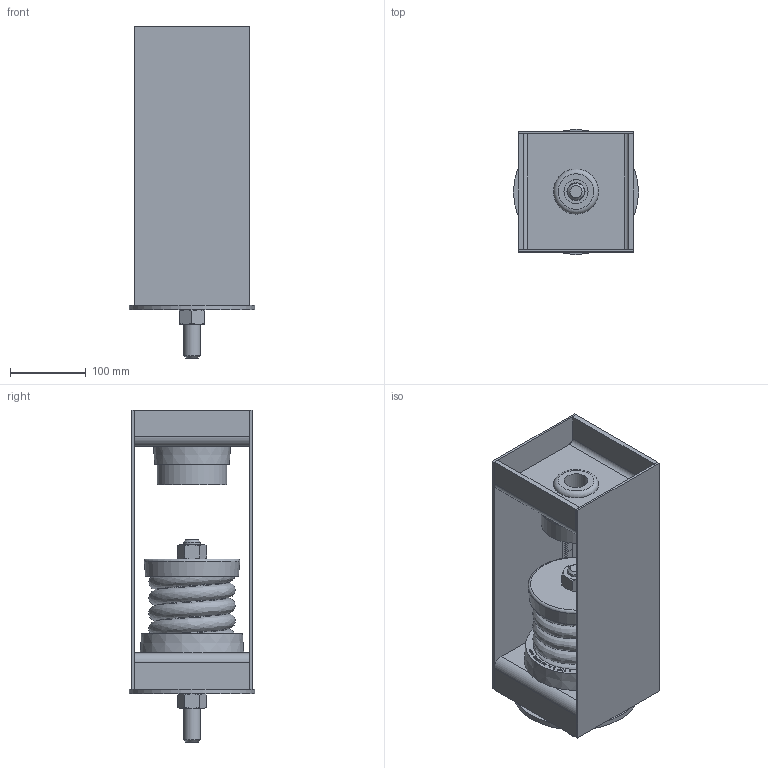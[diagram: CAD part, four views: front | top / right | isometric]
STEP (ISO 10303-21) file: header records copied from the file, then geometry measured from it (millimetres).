
FILE_DESCRIPTION((''),'2;1');
FILE_NAME('C:\2012_Work\Designs\HANGER BOXES\30N\PC30N-F-2760.stp','2013-10-16T11:57:32',('KShiels'),(''),'Autodesk Inventor 2012','Autodesk Inventor 2012','');
FILE_SCHEMA(('AUTOMOTIVE_DESIGN { 1 0 10303 214 1 1 1 1 }'));
Length unit declared in the file: inch
Products named in the file (19): PC30N-F-2760; 30N-F-2760 pc; A-16168-4 HANGER BOX WOS ASSEMBLY; A-16168-4 LONG FLAT; A-16168-4 FORMED CHANNEL C; A-16168-4 FORMED CHANNEL B; A-20474-5R HDDS HANGER ELEMENT; 20474-5A; A-20474-5B; A-20474-5C; A-15954-3R LDS HANGER CUP 4.5 in; A-15954-3R HANGER CUP 4.5 in; A-15954-3R WASHER 4; 4.5 in Cast Spring Cup 15/16 Dia. Hole-Suppressed; spring 30-2760 pc (silver); A-33231_C (PC WASHER); Hex Nut - Inch 7/8 - 9; THREADED ROD 0.875-9 10.5in LONG; PC SCALE
Assembly tree (20 placements, depth 5):
  PC30N-F-2760
    30N-F-2760 pc
      A-16168-4 HANGER BOX WOS ASSEMBLY
        A-16168-4 LONG FLAT  x2
        A-16168-4 FORMED CHANNEL C
        A-16168-4 FORMED CHANNEL B
        A-20474-5R HDDS HANGER ELEMENT
          20474-5A
          A-20474-5B
          A-20474-5C
        A-15954-3R LDS HANGER CUP 4.5 in
          A-15954-3R HANGER CUP 4.5 in
          A-15954-3R WASHER 4
        4.5 in Cast Spring Cup 15/16 Dia. Hole-Suppressed
      spring 30-2760 pc (silver)
    A-33231_C (PC WASHER)
    Hex Nut - Inch 7/8 - 9  x2
    THREADED ROD 0.875-9 10.5in LONG
    PC SCALE
Bounding box: 165.1 x 165.1 x 438.15 mm (x, y, z)
Volume: 2088821 mm3; surface area: 730769 mm2
Topology: 16 solids, 17 shells, 1338 faces, 3403 edges, 2249 vertices
Faces by surface type: plane 937, bspline 312, cylinder 53, cone 34, torus 2
Full cylindrical faces by diameter (mm): 19.177 x2, 22.225 x1, 23.813 x2, 25.4 x1, 31.699 x1, 31.75 x1, 41.275 x2, 46.831 x1, 47.625 x1, 82.55 x3, 87.313 x1, 88.9 x2, 92.075 x1, 96.838 x2, 98.425 x2, 112.713 x1, 116.681 x1, 120.65 x2, 165.1 x1
Entity records: 44224 total; most frequent: CARTESIAN_POINT 14136, ORIENTED_EDGE 6598, DIRECTION 4853, EDGE_CURVE 3299, VECTOR 2493, LINE 2493, VERTEX_POINT 2207, EDGE_LOOP 1518
